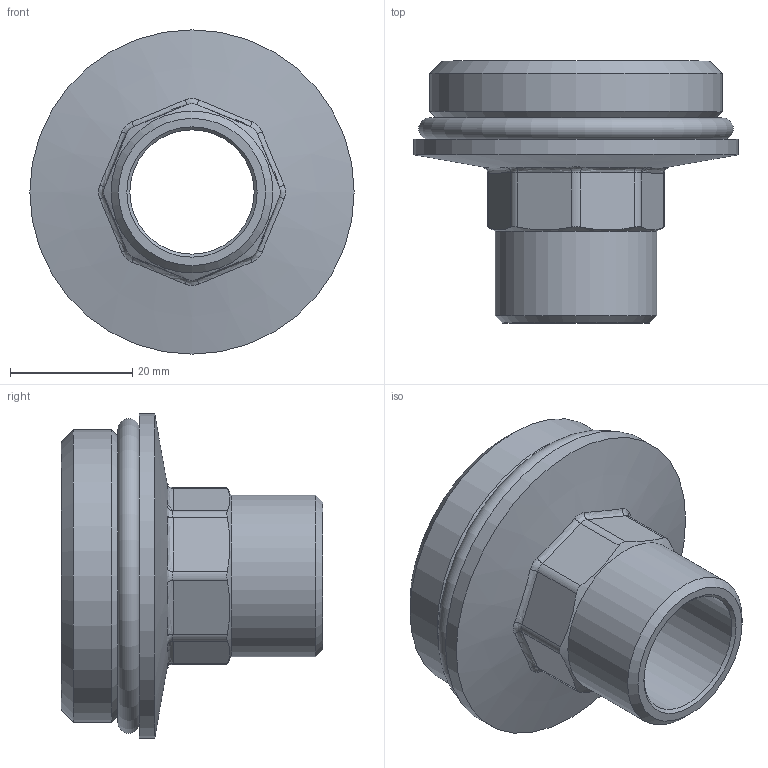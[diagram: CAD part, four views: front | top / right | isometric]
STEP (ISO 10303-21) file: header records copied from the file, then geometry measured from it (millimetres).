
FILE_DESCRIPTION(('STEP AP242'), '1');
FILE_NAME('覆.302634.094.000 捘 - VTr.601.N.0805', '', ('UNSPECIFIED'), ('UNSPECIFIED'), 'C3D Converter', 'C3D Toolkit', '');
FILE_SCHEMA(('AP242_MANAGED_MODEL_BASED_3D_ENGINEERING_MIM_LF { 1 0 10303 442 1 1 4 }'));
Length unit declared in the file: millimetre
Products named in the file (3): ВР.302634.094.000 СБ; ВР.753157.027
Assembly tree (2 placements, depth 2):
  ВР.302634.094.000 СБ
    ВР.753157.027
    (unnamed)
Bounding box: 53 x 42.8 x 53 mm (x, y, z)
Volume: 20799.3 mm3; surface area: 12978.4 mm2
Topology: 2 solids, 2 shells, 52 faces, 130 edges, 83 vertices
Faces by surface type: bspline 16, cylinder 14, plane 11, cone 8, torus 3
Full cylindrical faces by diameter (mm): 20.3 x1, 26.441 x1, 39.2 x1, 44.5 x1, 47.803 x1, 53 x1
Entity records: 3552 total; most frequent: CARTESIAN_POINT 2392, ORIENTED_EDGE 204, DIRECTION 150, EDGE_CURVE 102, EDGE_LOOP 70, VERTEX_POINT 70, B_SPLINE_CURVE_WITH_KNOTS 68, AXIS2_PLACEMENT_3D 67
